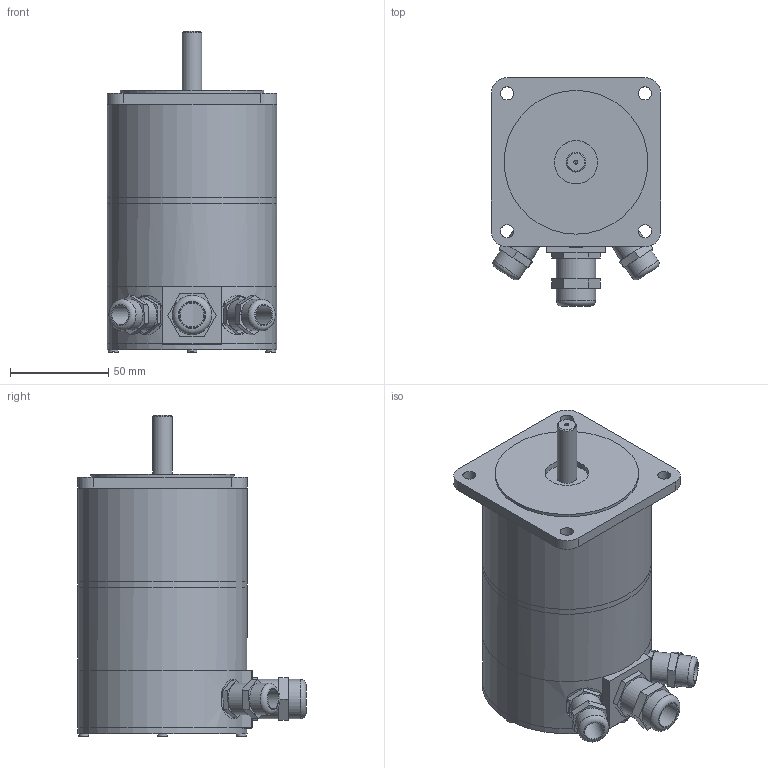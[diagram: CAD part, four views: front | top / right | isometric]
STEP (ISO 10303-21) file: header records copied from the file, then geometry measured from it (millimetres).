
FILE_DESCRIPTION((''),'2;1');
FILE_NAME('C:\Users\Reinhard\Documents\Inventor\Testschrittmotor\SM87\SM87.1-BE50-KV.stp','2012-11-12T21:58:12',('Reinhard'),(''),'Autodesk Inventor 2012','Autodesk Inventor 2012','');
FILE_SCHEMA(('CONFIG_CONTROL_DESIGN'));
Length unit declared in the file: millimetre
Products named in the file (1): SM87
Bounding box: 86 x 115.99 x 163.4 mm (x, y, z)
Volume: 172305 mm3; surface area: 112403 mm2
Topology: 2 solids, 3 shells, 171 faces, 385 edges, 252 vertices
Faces by surface type: plane 106, cylinder 57, cone 3, torus 3, sphere 2
Full cylindrical faces by diameter (mm): 2 x1, 5 x4, 6.6 x4, 10 x3, 12 x3, 13 x2, 15 x1, 16 x4, 18.376 x1, 20 x3, 22 x1, 73 x1, 78 x2, 82 x2, 86 x4
Entity records: 4680 total; most frequent: CARTESIAN_POINT 936, DIRECTION 784, ORIENTED_EDGE 664, EDGE_CURVE 332, AXIS2_PLACEMENT_3D 298, EDGE_LOOP 261, VERTEX_POINT 241, VECTOR 188
